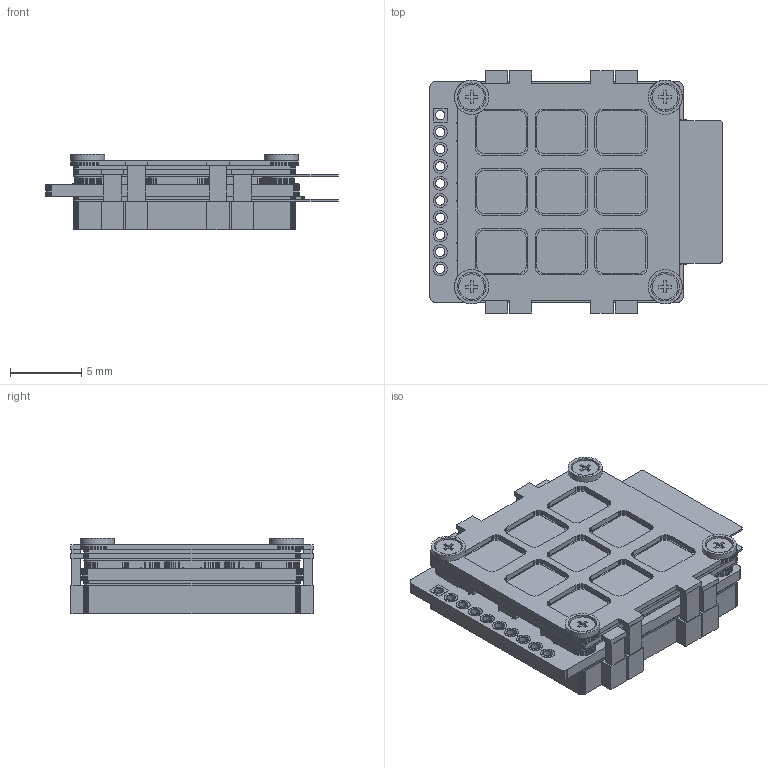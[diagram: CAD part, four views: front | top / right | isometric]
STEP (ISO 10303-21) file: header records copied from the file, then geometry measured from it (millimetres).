
FILE_DESCRIPTION(('Open CASCADE Model'),'2;1');
FILE_NAME('Open CASCADE Shape Model','2026-11-23T03:42:23',('Author'),( 'Open CASCADE'),'Open CASCADE STEP processor 7.9','Open CASCADE 7.9' ,'Unknown');
FILE_SCHEMA(('AUTOMOTIVE_DESIGN { 1 0 10303 214 1 1 1 1 }'));
Length unit declared in the file: millimetre
Products named in the file (43): R2K_display_2_strands; L01_tapped_backing; L04_electrode_board; L04_B10; L04_B11; L04_B12; L04_B13; L04_B20; L04_B21; L04_B22; L04_B23; L04_B30; L04_B31; L04_B32; L04_B33; L05_straight_NiCr_1; L05_straight_NiCr_2; L05_straight_NiCr_3; L05_straight_NiCr_4; L05_straight_NiCr_5; L05_straight_NiCr_6; L04_plated_land_T0; L04_plated_land_T1; L04_plated_land_T2; L04_plated_land_T3; L04_plated_land_T4; L04_plated_land_T5; L04_plated_land_T6; L04_plated_land_T7; L04_plated_land_T8; L04_plated_land_T9; L02-floor-C110; L03-windowed-floor-gasket; L06-connected-contact-gasket; L07-upper-dielectric-PI; L08-upper-C110; L09-aperture-cap-FR4; L10-diaphragm; L11_face_clamp_grid; L12_M1p2x4_1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
Assembly tree (42 placements, depth 2):
  R2K_display_2_strands
    L01_tapped_backing
    L04_electrode_board
    L04_B10
    L04_B11
    L04_B12
    L04_B13
    L04_B20
    L04_B21
    L04_B22
    L04_B23
    L04_B30
    L04_B31
    L04_B32
    L04_B33
    L05_straight_NiCr_1
    L05_straight_NiCr_2
    L05_straight_NiCr_3
    L05_straight_NiCr_4
    L05_straight_NiCr_5
    L05_straight_NiCr_6
    L04_plated_land_T0
    L04_plated_land_T1
    L04_plated_land_T2
    L04_plated_land_T3
    L04_plated_land_T4
    L04_plated_land_T5
    L04_plated_land_T6
    L04_plated_land_T7
    L04_plated_land_T8
    L04_plated_land_T9
    L02-floor-C110
    L03-windowed-floor-gasket
    L06-connected-contact-gasket
    L07-upper-dielectric-PI
    L08-upper-C110
    L09-aperture-cap-FR4
    L10-diaphragm
    L11_face_clamp_grid
    L12_M1p2x4_1
    L12_M1p2x4_2
    L12_M1p2x4_3
    L12_M1p2x4_4
Bounding box: 20.55 x 17 x 5.27 mm (x, y, z)
Volume: 901.3 mm3; surface area: 4953.5 mm2
Topology: 42 solids, 42 shells, 4248 faces, 12037 edges, 7936 vertices
Faces by surface type: plane 4076, cylinder 172
Full cylindrical faces by diameter (mm): 0.032 x30, 0.425 x9, 0.6 x9, 0.65 x30, 0.69 x20, 0.98 x18, 1.2 x8, 1.4 x36, 1.8 x4, 2 x4, 2.4 x4
Entity records: 293401 total; most frequent: CARTESIAN_POINT 49583, DIRECTION 44803, LINE 35052, VECTOR 35052, ORIENTED_EDGE 24074, PCURVE 24074, DEFINITIONAL_REPRESENTATION 24074, EDGE_CURVE 12037
